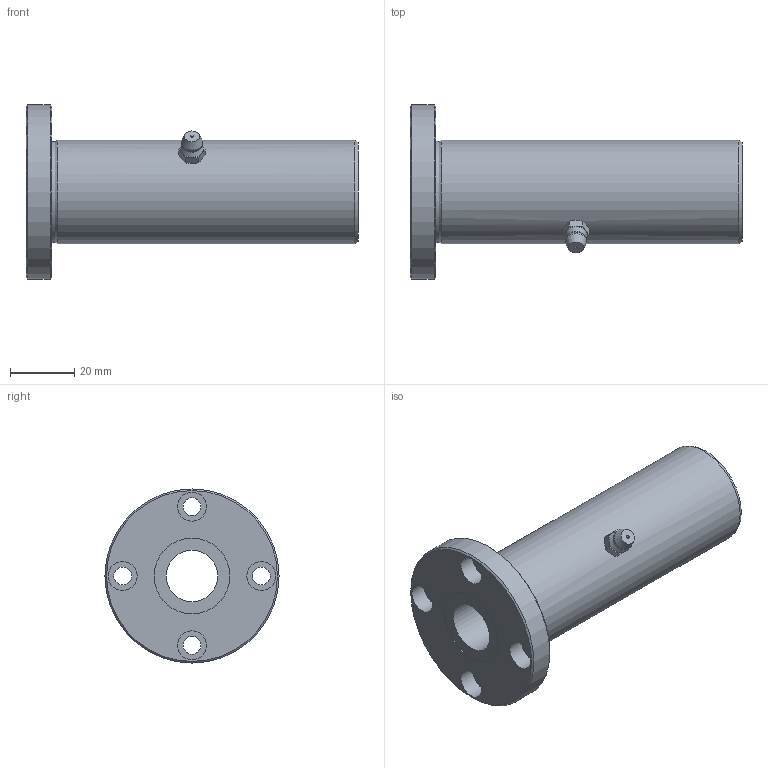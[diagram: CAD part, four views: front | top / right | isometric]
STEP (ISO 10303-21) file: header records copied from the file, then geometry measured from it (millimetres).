
FILE_DESCRIPTION((''),'2;1');
FILE_NAME('D:\製品 (図面)\カタログ用3D\リニアベアリング関連\STEP形式\LFL\LFL16.stp','2010-06-04T08:59:54',('Tsuchiya'),(''),'Autodesk Inventor 10','Autodesk Inventor 10','');
FILE_SCHEMA(('AUTOMOTIVE_DESIGN { 1 0 10303 214 1 1 1 1 }'));
Length unit declared in the file: millimetre
Products named in the file (1): LFL16
Bounding box: 103 x 54 x 54 mm (x, y, z)
Volume: 72525.9 mm3; surface area: 20946.2 mm2
Topology: 1 solids, 1 shells, 55 faces, 110 edges, 66 vertices
Faces by surface type: plane 19, cone 15, cylinder 15, bspline 3, sphere 2, torus 1
Full cylindrical faces by diameter (mm): 5.5 x4, 9 x4, 16 x1, 23.5 x2, 32 x1, 54 x1
Entity records: 1561 total; most frequent: CARTESIAN_POINT 508, DIRECTION 220, ORIENTED_EDGE 176, AXIS2_PLACEMENT_3D 105, EDGE_LOOP 96, EDGE_CURVE 88, VERTEX_POINT 64, FACE_OUTER_BOUND 55
